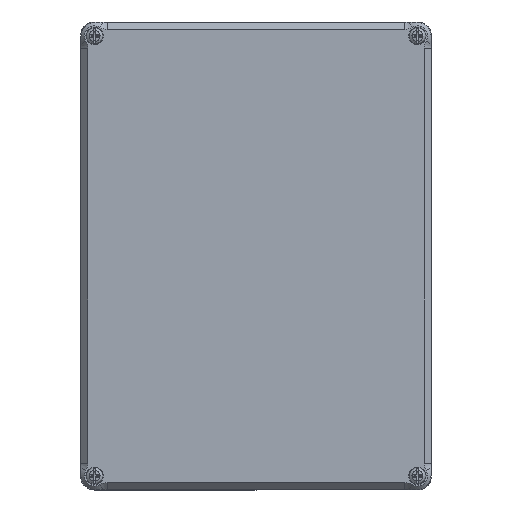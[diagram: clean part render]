
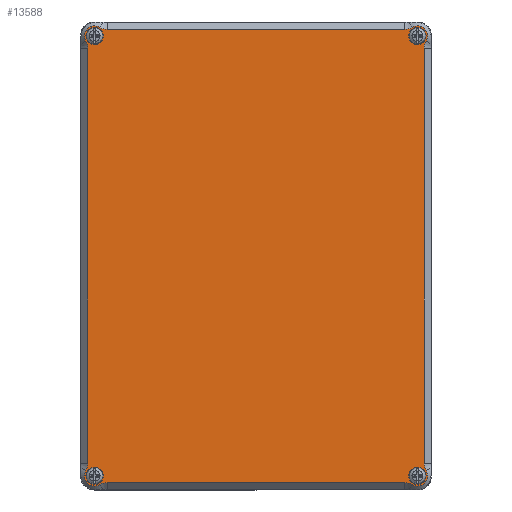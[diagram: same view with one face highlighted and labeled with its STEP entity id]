
A CAD part, top view. The second image highlights one B-rep face of the part: STEP entity #13588.
In plain terms, the highlighted planar face has unit normal (0, 0, 1) as drawn and (0, 0, -1) by its records, which use the part's own axes.
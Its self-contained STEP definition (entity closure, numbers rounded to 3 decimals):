
#12428=CARTESIAN_POINT('',(-58.906,72.455,-7.5));
#12429=VERTEX_POINT('',#12428);
#12430=CARTESIAN_POINT('',(-55.206,72.455,-7.5));
#12431=DIRECTION('',(0.0,0.0,1.0));
#12432=DIRECTION('',(1.0,0.0,0.0));
#12433=AXIS2_PLACEMENT_3D('',#12430,#12431,#12432);
#12434=CIRCLE('',#12433,3.7);
#12435=EDGE_CURVE('',#12429,#12429,#12434,.T.);
#12484=CARTESIAN_POINT('',(79.094,72.455,-7.5));
#12485=VERTEX_POINT('',#12484);
#12486=CARTESIAN_POINT('',(82.794,72.455,-7.5));
#12487=DIRECTION('',(0.0,0.0,1.0));
#12488=DIRECTION('',(1.0,0.0,0.0));
#12489=AXIS2_PLACEMENT_3D('',#12486,#12487,#12488);
#12490=CIRCLE('',#12489,3.7);
#12491=EDGE_CURVE('',#12485,#12485,#12490,.T.);
#12540=CARTESIAN_POINT('',(-58.906,-115.545,-7.5));
#12541=VERTEX_POINT('',#12540);
#12542=CARTESIAN_POINT('',(-55.206,-115.545,-7.5));
#12543=DIRECTION('',(0.0,0.0,1.0));
#12544=DIRECTION('',(1.0,0.0,0.0));
#12545=AXIS2_PLACEMENT_3D('',#12542,#12543,#12544);
#12546=CIRCLE('',#12545,3.7);
#12547=EDGE_CURVE('',#12541,#12541,#12546,.T.);
#12596=CARTESIAN_POINT('',(79.094,-115.545,-7.5));
#12597=VERTEX_POINT('',#12596);
#12598=CARTESIAN_POINT('',(82.794,-115.545,-7.5));
#12599=DIRECTION('',(0.0,0.0,1.0));
#12600=DIRECTION('',(1.0,0.0,0.0));
#12601=AXIS2_PLACEMENT_3D('',#12598,#12599,#12600);
#12602=CIRCLE('',#12601,3.7);
#12603=EDGE_CURVE('',#12597,#12597,#12602,.T.);
#12630=CARTESIAN_POINT('',(86.517,-113.308,-7.5));
#12631=VERTEX_POINT('',#12630);
#12638=CARTESIAN_POINT('',(85.637,-110.137,-7.5));
#12639=VERTEX_POINT('',#12638);
#12640=CARTESIAN_POINT('',(91.794,-110.137,-7.5));
#12641=DIRECTION('',(0.0,0.0,1.0));
#12642=DIRECTION('',(1.0,0.0,0.0));
#12643=AXIS2_PLACEMENT_3D('',#12640,#12641,#12642);
#12644=CIRCLE('',#12643,6.157);
#12645=EDGE_CURVE('',#12639,#12631,#12644,.T.);
#12678=CARTESIAN_POINT('',(86.517,70.218,-7.5));
#12679=VERTEX_POINT('',#12678);
#12686=CARTESIAN_POINT('',(80.557,76.178,-7.5));
#12687=VERTEX_POINT('',#12686);
#12688=CARTESIAN_POINT('',(82.794,72.455,-7.5));
#12689=DIRECTION('',(0.0,0.0,-1.0));
#12690=DIRECTION('',(1.0,0.0,0.0));
#12691=AXIS2_PLACEMENT_3D('',#12688,#12689,#12690);
#12692=CIRCLE('',#12691,4.343);
#12693=EDGE_CURVE('',#12687,#12679,#12692,.T.);
#12771=CARTESIAN_POINT('',(-52.969,-119.267,-7.5));
#12772=VERTEX_POINT('',#12771);
#12779=CARTESIAN_POINT('',(-49.798,-118.388,-7.5));
#12780=VERTEX_POINT('',#12779);
#12781=CARTESIAN_POINT('',(-49.798,-124.545,-7.5));
#12782=DIRECTION('',(0.0,0.0,1.0));
#12783=DIRECTION('',(1.0,0.0,0.0));
#12784=AXIS2_PLACEMENT_3D('',#12781,#12782,#12783);
#12785=CIRCLE('',#12784,6.157);
#12786=EDGE_CURVE('',#12780,#12772,#12785,.T.);
#12818=CARTESIAN_POINT('',(77.386,75.298,-7.5));
#12819=VERTEX_POINT('',#12818);
#12820=CARTESIAN_POINT('',(77.386,81.455,-7.5));
#12821=DIRECTION('',(0.0,0.0,1.0));
#12822=DIRECTION('',(1.0,0.0,0.0));
#12823=AXIS2_PLACEMENT_3D('',#12820,#12821,#12822);
#12824=CIRCLE('',#12823,6.157);
#12825=EDGE_CURVE('',#12819,#12687,#12824,.T.);
#12858=CARTESIAN_POINT('',(-52.969,76.178,-7.5));
#12859=VERTEX_POINT('',#12858);
#12866=CARTESIAN_POINT('',(-58.928,70.218,-7.5));
#12867=VERTEX_POINT('',#12866);
#12868=CARTESIAN_POINT('',(-55.206,72.455,-7.5));
#12869=DIRECTION('',(0.0,0.0,-1.0));
#12870=DIRECTION('',(1.0,0.0,0.0));
#12871=AXIS2_PLACEMENT_3D('',#12868,#12869,#12870);
#12872=CIRCLE('',#12871,4.343);
#12873=EDGE_CURVE('',#12867,#12859,#12872,.T.);
#12950=CARTESIAN_POINT('',(-58.049,67.047,-7.5));
#12951=VERTEX_POINT('',#12950);
#12952=CARTESIAN_POINT('',(-64.206,67.047,-7.5));
#12953=DIRECTION('',(0.0,0.0,1.0));
#12954=DIRECTION('',(1.0,0.0,0.0));
#12955=AXIS2_PLACEMENT_3D('',#12952,#12953,#12954);
#12956=CIRCLE('',#12955,6.157);
#12957=EDGE_CURVE('',#12951,#12867,#12956,.T.);
#12975=CARTESIAN_POINT('',(-58.049,-110.137,-7.5));
#12976=VERTEX_POINT('',#12975);
#12990=CARTESIAN_POINT('',(-58.049,-110.137,-7.5));
#12991=DIRECTION('',(0.0,1.0,0.0));
#12992=VECTOR('',#12991,177.183);
#12993=LINE('',#12990,#12992);
#12994=EDGE_CURVE('',#12976,#12951,#12993,.T.);
#13019=CARTESIAN_POINT('',(-49.798,75.298,-7.5));
#13020=VERTEX_POINT('',#13019);
#13027=CARTESIAN_POINT('',(-49.798,81.455,-7.5));
#13028=DIRECTION('',(0.0,0.0,1.0));
#13029=DIRECTION('',(1.0,0.0,0.0));
#13030=AXIS2_PLACEMENT_3D('',#13027,#13028,#13029);
#13031=CIRCLE('',#13030,6.157);
#13032=EDGE_CURVE('',#12859,#13020,#13031,.T.);
#13051=CARTESIAN_POINT('',(-49.798,75.298,-7.5));
#13052=DIRECTION('',(1.0,0.0,0.0));
#13053=VECTOR('',#13052,127.183);
#13054=LINE('',#13051,#13053);
#13055=EDGE_CURVE('',#13020,#12819,#13054,.T.);
#13080=CARTESIAN_POINT('',(85.637,67.047,-7.5));
#13081=VERTEX_POINT('',#13080);
#13088=CARTESIAN_POINT('',(91.794,67.047,-7.5));
#13089=DIRECTION('',(0.0,0.0,1.0));
#13090=DIRECTION('',(1.0,0.0,0.0));
#13091=AXIS2_PLACEMENT_3D('',#13088,#13089,#13090);
#13092=CIRCLE('',#13091,6.157);
#13093=EDGE_CURVE('',#12679,#13081,#13092,.T.);
#13112=CARTESIAN_POINT('',(85.637,67.047,-7.5));
#13113=DIRECTION('',(0.0,-1.0,0.0));
#13114=VECTOR('',#13113,177.183);
#13115=LINE('',#13112,#13114);
#13116=EDGE_CURVE('',#13081,#12639,#13115,.T.);
#13186=CARTESIAN_POINT('',(80.557,-119.267,-7.5));
#13187=VERTEX_POINT('',#13186);
#13194=CARTESIAN_POINT('',(82.794,-115.545,-7.5));
#13195=DIRECTION('',(0.0,0.0,-1.0));
#13196=DIRECTION('',(1.0,0.0,0.0));
#13197=AXIS2_PLACEMENT_3D('',#13194,#13195,#13196);
#13198=CIRCLE('',#13197,4.343);
#13199=EDGE_CURVE('',#12631,#13187,#13198,.T.);
#13225=CARTESIAN_POINT('',(77.386,-118.388,-7.5));
#13226=VERTEX_POINT('',#13225);
#13233=CARTESIAN_POINT('',(77.386,-124.545,-7.5));
#13234=DIRECTION('',(0.0,0.0,1.0));
#13235=DIRECTION('',(1.0,0.0,0.0));
#13236=AXIS2_PLACEMENT_3D('',#13233,#13234,#13235);
#13237=CIRCLE('',#13236,6.157);
#13238=EDGE_CURVE('',#13187,#13226,#13237,.T.);
#13257=CARTESIAN_POINT('',(77.386,-118.388,-7.5));
#13258=DIRECTION('',(-1.0,0.0,0.0));
#13259=VECTOR('',#13258,127.183);
#13260=LINE('',#13257,#13259);
#13261=EDGE_CURVE('',#13226,#12780,#13260,.T.);
#13331=CARTESIAN_POINT('',(-58.928,-113.308,-7.5));
#13332=VERTEX_POINT('',#13331);
#13339=CARTESIAN_POINT('',(-55.206,-115.545,-7.5));
#13340=DIRECTION('',(0.0,0.0,-1.0));
#13341=DIRECTION('',(1.0,0.0,0.0));
#13342=AXIS2_PLACEMENT_3D('',#13339,#13340,#13341);
#13343=CIRCLE('',#13342,4.343);
#13344=EDGE_CURVE('',#12772,#13332,#13343,.T.);
#13369=CARTESIAN_POINT('',(-64.206,-110.137,-7.5));
#13370=DIRECTION('',(0.0,0.0,1.0));
#13371=DIRECTION('',(1.0,0.0,0.0));
#13372=AXIS2_PLACEMENT_3D('',#13369,#13370,#13371);
#13373=CIRCLE('',#13372,6.157);
#13374=EDGE_CURVE('',#13332,#12976,#13373,.T.);
#13553=CARTESIAN_POINT('',(13.794,3.455,-7.5));
#13554=DIRECTION('',(0.0,0.0,1.0));
#13555=DIRECTION('',(1.0,0.0,0.0));
#13556=AXIS2_PLACEMENT_3D('',#13553,#13554,#13555);
#13557=PLANE('',#13556);
#13558=ORIENTED_EDGE('',*,*,#12994,.T.);
#13559=ORIENTED_EDGE('',*,*,#12957,.T.);
#13560=ORIENTED_EDGE('',*,*,#12873,.T.);
#13561=ORIENTED_EDGE('',*,*,#13032,.T.);
#13562=ORIENTED_EDGE('',*,*,#13055,.T.);
#13563=ORIENTED_EDGE('',*,*,#12825,.T.);
#13564=ORIENTED_EDGE('',*,*,#12693,.T.);
#13565=ORIENTED_EDGE('',*,*,#13093,.T.);
#13566=ORIENTED_EDGE('',*,*,#13116,.T.);
#13567=ORIENTED_EDGE('',*,*,#12645,.T.);
#13568=ORIENTED_EDGE('',*,*,#13199,.T.);
#13569=ORIENTED_EDGE('',*,*,#13238,.T.);
#13570=ORIENTED_EDGE('',*,*,#13261,.T.);
#13571=ORIENTED_EDGE('',*,*,#12786,.T.);
#13572=ORIENTED_EDGE('',*,*,#13344,.T.);
#13573=ORIENTED_EDGE('',*,*,#13374,.T.);
#13574=EDGE_LOOP('',(#13558,#13559,#13560,#13561,#13562,#13563,#13564,#13565,#13566,#13567,#13568,#13569,#13570,#13571,#13572,#13573));
#13575=FACE_OUTER_BOUND('',#13574,.T.);
#13576=ORIENTED_EDGE('',*,*,#12435,.T.);
#13577=EDGE_LOOP('',(#13576));
#13578=FACE_BOUND('',#13577,.T.);
#13579=ORIENTED_EDGE('',*,*,#12491,.T.);
#13580=EDGE_LOOP('',(#13579));
#13581=FACE_BOUND('',#13580,.T.);
#13582=ORIENTED_EDGE('',*,*,#12547,.T.);
#13583=EDGE_LOOP('',(#13582));
#13584=FACE_BOUND('',#13583,.T.);
#13585=ORIENTED_EDGE('',*,*,#12603,.T.);
#13586=EDGE_LOOP('',(#13585));
#13587=FACE_BOUND('',#13586,.T.);
#13588=ADVANCED_FACE('',(#13575,#13578,#13581,#13584,#13587),#13557,.F.);
